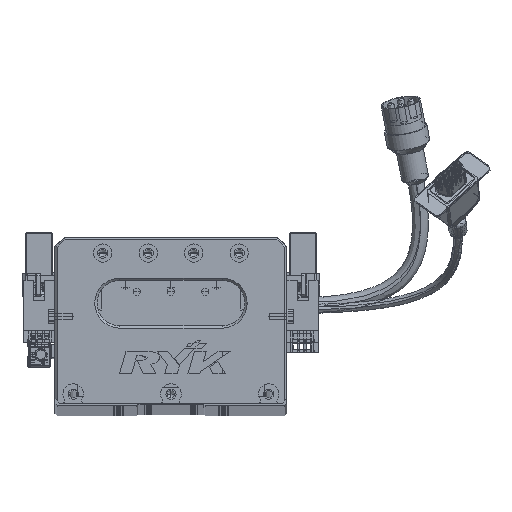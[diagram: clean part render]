
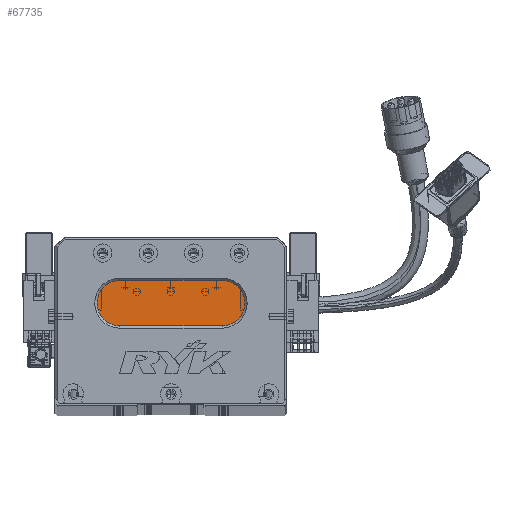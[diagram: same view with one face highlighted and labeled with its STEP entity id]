
A CAD part, top view. The second image highlights one B-rep face of the part: STEP entity #67735.
In plain terms, the highlighted planar face has unit normal (0, 0, 1) as drawn and (0, 0, -1) by its records, which use the part's own axes.
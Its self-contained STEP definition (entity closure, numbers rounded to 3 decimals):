
#2816 = DIRECTION ( 'NONE',  ( 0., 0., -1. ) ) ;
#3844 = VERTEX_POINT ( 'NONE', #13122 ) ;
#4017 = ORIENTED_EDGE ( 'NONE', *, *, #10812, .T. ) ;
#5539 = DIRECTION ( 'NONE',  ( -1., 0., 0. ) ) ;
#10189 = CARTESIAN_POINT ( 'NONE',  ( 73.5, 54., 13. ) ) ;
#10812 = EDGE_CURVE ( 'NONE', #34601, #70979, #48727, .T. ) ;
#13122 = CARTESIAN_POINT ( 'NONE',  ( 73.5, 34., 13. ) ) ;
#13239 = VERTEX_POINT ( 'NONE', #63700 ) ;
#15312 = AXIS2_PLACEMENT_3D ( 'NONE', #22508, #2816, #49856 ) ;
#17751 = DIRECTION ( 'NONE',  ( -1., 0., 0. ) ) ;
#18295 = ORIENTED_EDGE ( 'NONE', *, *, #27275, .T. ) ;
#19241 = PLANE ( 'NONE',  #47957 ) ;
#19625 = CARTESIAN_POINT ( 'NONE',  ( 73.5, 34., 13. ) ) ;
#20713 = AXIS2_PLACEMENT_3D ( 'NONE', #58009, #77919, #17751 ) ;
#22109 = EDGE_CURVE ( 'NONE', #70979, #3844, #31634, .T. ) ;
#22508 = CARTESIAN_POINT ( 'NONE',  ( 28.5, 44., 13. ) ) ;
#23575 = CARTESIAN_POINT ( 'NONE',  ( 73.5, 54., 13. ) ) ;
#26601 = DIRECTION ( 'NONE',  ( 0., 0., -1. ) ) ;
#26626 = VECTOR ( 'NONE', #84388, 1000. ) ;
#27275 = EDGE_CURVE ( 'NONE', #30659, #13239, #65056, .T. ) ;
#27942 = ORIENTED_EDGE ( 'NONE', *, *, #83029, .T. ) ;
#28995 = ORIENTED_EDGE ( 'NONE', *, *, #52747, .T. ) ;
#30659 = VERTEX_POINT ( 'NONE', #75244 ) ;
#31634 = CIRCLE ( 'NONE', #20713, 10. ) ;
#32873 = AXIS2_PLACEMENT_3D ( 'NONE', #75562, #69145, #55677 ) ;
#33674 = CARTESIAN_POINT ( 'NONE',  ( 73.5, 44., 13. ) ) ;
#34601 = VERTEX_POINT ( 'NONE', #48332 ) ;
#36849 = ORIENTED_EDGE ( 'NONE', *, *, #22109, .T. ) ;
#40127 = DIRECTION ( 'NONE',  ( -1., 0., 0. ) ) ;
#45919 = CIRCLE ( 'NONE', #32873, 10. ) ;
#47957 = AXIS2_PLACEMENT_3D ( 'NONE', #33674, #26601, #40127 ) ;
#48332 = CARTESIAN_POINT ( 'NONE',  ( 28.5, 54., 13. ) ) ;
#48727 = LINE ( 'NONE', #23575, #26626 ) ;
#49856 = DIRECTION ( 'NONE',  ( -1., 0., 0. ) ) ;
#52747 = EDGE_CURVE ( 'NONE', #13239, #34601, #45919, .T. ) ;
#55677 = DIRECTION ( 'NONE',  ( -1., 0., 0. ) ) ;
#56431 = VECTOR ( 'NONE', #5539, 1000. ) ;
#58009 = CARTESIAN_POINT ( 'NONE',  ( 73.5, 44., 13. ) ) ;
#61619 = LINE ( 'NONE', #19625, #56431 ) ;
#63700 = CARTESIAN_POINT ( 'NONE',  ( 18.5, 44., 13. ) ) ;
#65056 = CIRCLE ( 'NONE', #15312, 10. ) ;
#67735 = ADVANCED_FACE ( 'NONE', ( #71509 ), #19241, .T. ) ;
#69145 = DIRECTION ( 'NONE',  ( 0., 0., -1. ) ) ;
#70979 = VERTEX_POINT ( 'NONE', #10189 ) ;
#71509 = FACE_OUTER_BOUND ( 'NONE', #72422, .T. ) ;
#72422 = EDGE_LOOP ( 'NONE', ( #36849, #27942, #18295, #28995, #4017 ) ) ;
#75244 = CARTESIAN_POINT ( 'NONE',  ( 28.5, 34., 13. ) ) ;
#75562 = CARTESIAN_POINT ( 'NONE',  ( 28.5, 44., 13. ) ) ;
#77919 = DIRECTION ( 'NONE',  ( 0., 0., -1. ) ) ;
#83029 = EDGE_CURVE ( 'NONE', #3844, #30659, #61619, .T. ) ;
#84388 = DIRECTION ( 'NONE',  ( 1., 0., 0. ) ) ;
